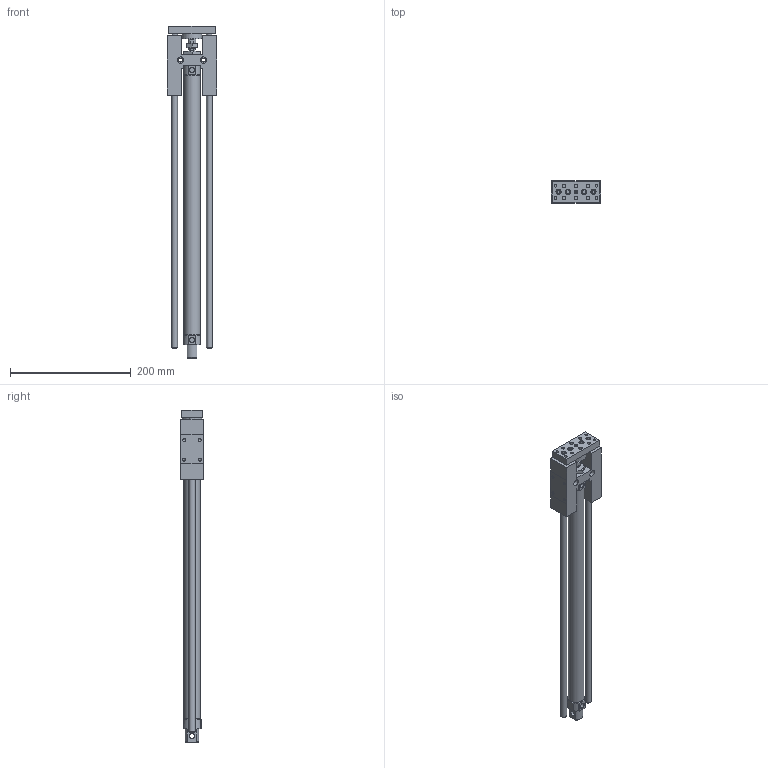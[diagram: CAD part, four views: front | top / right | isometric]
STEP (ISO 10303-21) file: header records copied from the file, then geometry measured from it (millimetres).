
FILE_DESCRIPTION((''),'2;1');
FILE_NAME('I:\3D電子目錄\氣缸\GHB(U)\GHB(U)\GHB(U)25\GHB(U)25x400.stp','2007-10-22T16:52:48',('Administrator'),(''),'Autodesk Inventor 11','Autodesk Inventor 11','');
FILE_SCHEMA(('AUTOMOTIVE_DESIGN { 1 0 10303 214 1 1 1 1 }'));
Length unit declared in the file: millimetre
Products named in the file (1): GHB(U)25
Bounding box: 82 x 38 x 551 mm (x, y, z)
Volume: 575336.1 mm3; surface area: 115157.9 mm2
Topology: 1 solids, 1 shells, 230 faces, 542 edges, 352 vertices
Faces by surface type: plane 131, cylinder 38, bspline 36, cone 25
Full cylindrical faces by diameter (mm): 4.917 x4, 5 x1, 6 x5, 7.5 x4, 8 x1, 8.5 x6, 8.6 x1, 10 x3, 13 x1, 26.6 x1, 33 x1
Entity records: 6522 total; most frequent: CARTESIAN_POINT 1583, DIRECTION 974, ORIENTED_EDGE 928, EDGE_CURVE 464, EDGE_LOOP 358, AXIS2_PLACEMENT_3D 347, VERTEX_POINT 338, VECTOR 280
